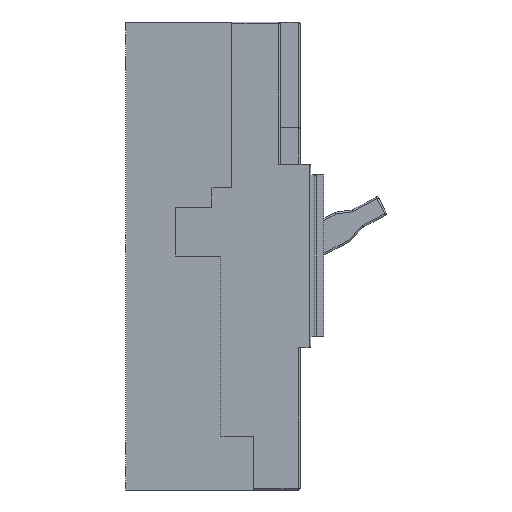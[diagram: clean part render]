
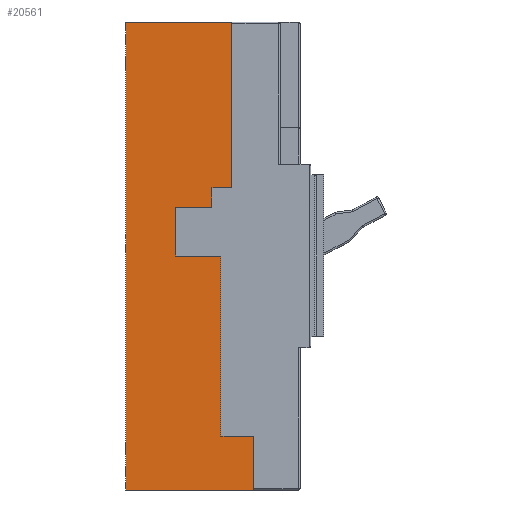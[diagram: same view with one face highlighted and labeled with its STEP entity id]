
A CAD part, left-side view. The second image highlights one B-rep face of the part: STEP entity #20561.
In plain terms, the highlighted planar face has unit normal (-1, 0, 0).
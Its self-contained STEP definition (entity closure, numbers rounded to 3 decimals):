
#6910=DIRECTION('',(0.,1.,0.));
#6911=VECTOR('',#6910,71.);
#6912=CARTESIAN_POINT('',(-70.2,-22.5,-130.));
#6913=LINE('',#6912,#6911);
#6914=DIRECTION('',(0.,0.,1.));
#6915=VECTOR('',#6914,260.);
#6916=CARTESIAN_POINT('',(-70.2,48.5,-130.));
#6917=LINE('',#6916,#6915);
#6918=DIRECTION('',(0.,-1.,0.));
#6919=VECTOR('',#6918,59.);
#6920=CARTESIAN_POINT('',(-70.2,48.5,130.));
#6921=LINE('',#6920,#6919);
#6922=DIRECTION('',(0.,0.,-1.));
#6923=VECTOR('',#6922,92.);
#6924=CARTESIAN_POINT('',(-70.2,-10.5,130.));
#6925=LINE('',#6924,#6923);
#6926=DIRECTION('',(0.,1.,0.));
#6927=VECTOR('',#6926,11.);
#6928=CARTESIAN_POINT('',(-70.2,-10.5,38.));
#6929=LINE('',#6928,#6927);
#6930=DIRECTION('',(0.,0.,-1.));
#6931=VECTOR('',#6930,11.);
#6932=CARTESIAN_POINT('',(-70.2,0.5,38.));
#6933=LINE('',#6932,#6931);
#6934=DIRECTION('',(0.,1.,0.));
#6935=VECTOR('',#6934,20.);
#6936=CARTESIAN_POINT('',(-70.2,0.5,27.));
#6937=LINE('',#6936,#6935);
#6938=DIRECTION('',(0.,0.,-1.));
#6939=VECTOR('',#6938,27.);
#6940=CARTESIAN_POINT('',(-70.2,20.5,27.));
#6941=LINE('',#6940,#6939);
#6942=DIRECTION('',(0.,-1.,0.));
#6943=VECTOR('',#6942,25.);
#6944=CARTESIAN_POINT('',(-70.2,20.5,0.));
#6945=LINE('',#6944,#6943);
#6946=DIRECTION('',(0.,0.,-1.));
#6947=VECTOR('',#6946,100.);
#6948=CARTESIAN_POINT('',(-70.2,-4.5,0.));
#6949=LINE('',#6948,#6947);
#6950=DIRECTION('',(0.,-1.,0.));
#6951=VECTOR('',#6950,18.);
#6952=CARTESIAN_POINT('',(-70.2,-4.5,-100.));
#6953=LINE('',#6952,#6951);
#6954=DIRECTION('',(0.,0.,-1.));
#6955=VECTOR('',#6954,30.);
#6956=CARTESIAN_POINT('',(-70.2,-22.5,-100.));
#6957=LINE('',#6956,#6955);
#10526=CARTESIAN_POINT('',(-70.2,-22.5,-130.));
#10527=CARTESIAN_POINT('',(-70.2,48.5,-130.));
#10528=VERTEX_POINT('',#10526);
#10529=VERTEX_POINT('',#10527);
#10530=CARTESIAN_POINT('',(-70.2,48.5,130.));
#10531=VERTEX_POINT('',#10530);
#10532=CARTESIAN_POINT('',(-70.2,-10.5,130.));
#10533=VERTEX_POINT('',#10532);
#10534=CARTESIAN_POINT('',(-70.2,-10.5,38.));
#10535=VERTEX_POINT('',#10534);
#10536=CARTESIAN_POINT('',(-70.2,0.5,38.));
#10537=VERTEX_POINT('',#10536);
#10538=CARTESIAN_POINT('',(-70.2,0.5,27.));
#10539=VERTEX_POINT('',#10538);
#10540=CARTESIAN_POINT('',(-70.2,20.5,27.));
#10541=VERTEX_POINT('',#10540);
#10542=CARTESIAN_POINT('',(-70.2,20.5,0.));
#10543=VERTEX_POINT('',#10542);
#10544=CARTESIAN_POINT('',(-70.2,-4.5,0.));
#10545=VERTEX_POINT('',#10544);
#10546=CARTESIAN_POINT('',(-70.2,-4.5,-100.));
#10547=VERTEX_POINT('',#10546);
#10548=CARTESIAN_POINT('',(-70.2,-22.5,-100.));
#10549=VERTEX_POINT('',#10548);
#20534=CARTESIAN_POINT('',(-70.2,0.,0.));
#20535=DIRECTION('',(1.,0.,0.));
#20536=DIRECTION('',(0.,0.,1.));
#20537=AXIS2_PLACEMENT_3D('',#20534,#20535,#20536);
#20538=PLANE('',#20537);
#20539=ORIENTED_EDGE('',*,*,#19046,.T.);
#20540=ORIENTED_EDGE('',*,*,#18275,.T.);
#20541=ORIENTED_EDGE('',*,*,#17994,.T.);
#20543=ORIENTED_EDGE('',*,*,#20542,.T.);
#20545=ORIENTED_EDGE('',*,*,#20544,.T.);
#20547=ORIENTED_EDGE('',*,*,#20546,.T.);
#20549=ORIENTED_EDGE('',*,*,#20548,.T.);
#20551=ORIENTED_EDGE('',*,*,#20550,.T.);
#20553=ORIENTED_EDGE('',*,*,#20552,.T.);
#20555=ORIENTED_EDGE('',*,*,#20554,.T.);
#20557=ORIENTED_EDGE('',*,*,#20556,.T.);
#20558=ORIENTED_EDGE('',*,*,#20527,.T.);
#20559=EDGE_LOOP('',(#20539,#20540,#20541,#20543,#20545,#20547,#20549,#20551,
#20553,#20555,#20557,#20558));
#20560=FACE_OUTER_BOUND('',#20559,.F.);
#17994=EDGE_CURVE('',#10531,#10533,#6921,.T.);
#18275=EDGE_CURVE('',#10529,#10531,#6917,.T.);
#19046=EDGE_CURVE('',#10528,#10529,#6913,.T.);
#20527=EDGE_CURVE('',#10549,#10528,#6957,.T.);
#20542=EDGE_CURVE('',#10533,#10535,#6925,.T.);
#20544=EDGE_CURVE('',#10535,#10537,#6929,.T.);
#20546=EDGE_CURVE('',#10537,#10539,#6933,.T.);
#20548=EDGE_CURVE('',#10539,#10541,#6937,.T.);
#20550=EDGE_CURVE('',#10541,#10543,#6941,.T.);
#20552=EDGE_CURVE('',#10543,#10545,#6945,.T.);
#20554=EDGE_CURVE('',#10545,#10547,#6949,.T.);
#20556=EDGE_CURVE('',#10547,#10549,#6953,.T.);
#20561=ADVANCED_FACE('',(#20560),#20538,.F.);
